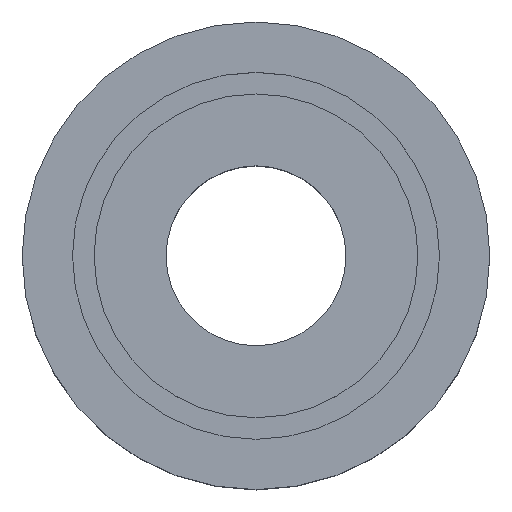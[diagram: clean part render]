
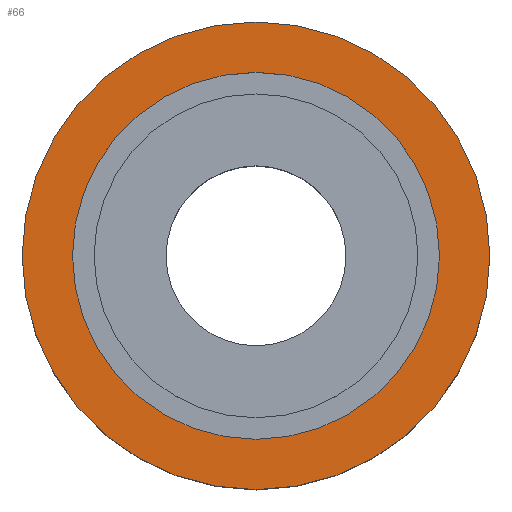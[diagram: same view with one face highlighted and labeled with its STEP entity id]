
A CAD part, top view. The second image highlights one B-rep face of the part: STEP entity #66.
In plain terms, the highlighted planar face has unit normal (0, 0, 1) as drawn and (0, 0, -1) by its records, which use the part's own axes.
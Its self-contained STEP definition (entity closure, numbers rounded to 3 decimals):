
#66 = ADVANCED_FACE( '', ( #130, #131 ), #132, .T. );
#130 = FACE_OUTER_BOUND( '', #210, .T. );
#131 = FACE_BOUND( '', #211, .T. );
#132 = PLANE( '', #212 );
#210 = EDGE_LOOP( '', ( #297 ) );
#211 = EDGE_LOOP( '', ( #298 ) );
#212 = AXIS2_PLACEMENT_3D( '', #299, #300, #301 );
#297 = ORIENTED_EDGE( '', *, *, #405, .T. );
#298 = ORIENTED_EDGE( '', *, *, #406, .F. );
#299 = CARTESIAN_POINT( '', ( -51., 0., 0. ) );
#300 = DIRECTION( '', ( 0., 0., -1. ) );
#301 = DIRECTION( '', ( -1., 0., 0. ) );
#405 = EDGE_CURVE( '', #469, #469, #470, .T. );
#406 = EDGE_CURVE( '', #471, #471, #472, .T. );
#469 = VERTEX_POINT( '', #557 );
#470 = CIRCLE( '', #558, 65. );
#471 = VERTEX_POINT( '', #559 );
#472 = CIRCLE( '', #560, 51. );
#557 = CARTESIAN_POINT( '', ( -65., 0., 0. ) );
#558 = AXIS2_PLACEMENT_3D( '', #616, #617, #618 );
#559 = CARTESIAN_POINT( '', ( -51., 0., 0. ) );
#560 = AXIS2_PLACEMENT_3D( '', #619, #620, #621 );
#616 = CARTESIAN_POINT( '', ( 0., 0., 0. ) );
#617 = DIRECTION( '', ( 0., 0., -1. ) );
#618 = DIRECTION( '', ( -1., 0., 0. ) );
#619 = CARTESIAN_POINT( '', ( 0., 0., 0. ) );
#620 = DIRECTION( '', ( 0., 0., -1. ) );
#621 = DIRECTION( '', ( -1., 0., 0. ) );
